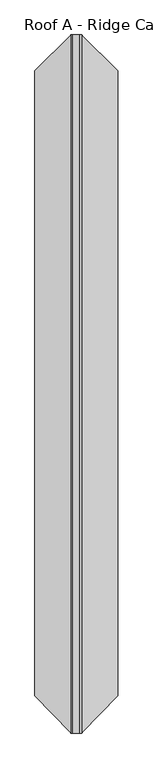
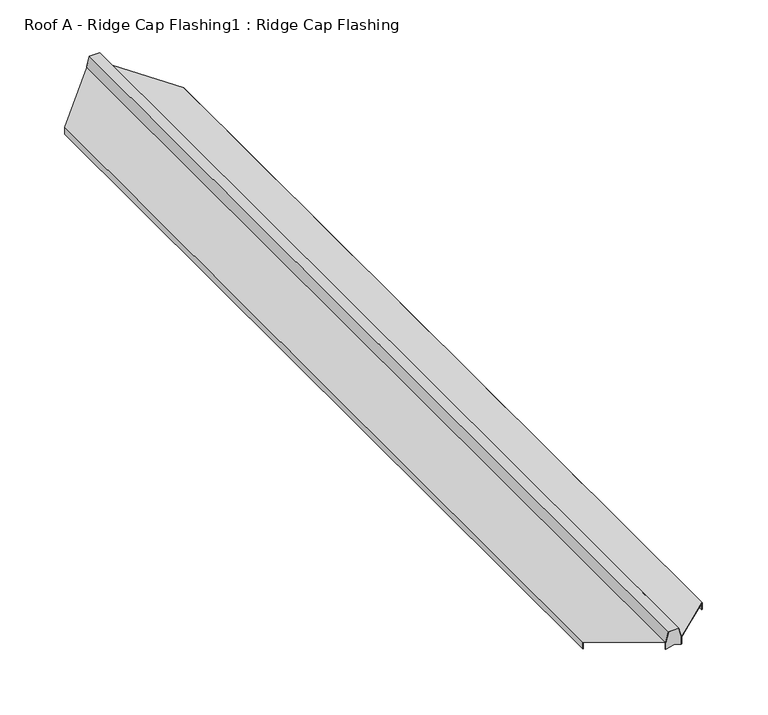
"""IFC4 building model written with IfcOpenShell, lengths in millimetres: proxy geometry, Roof A - Ridge Cap Flashing1 : Ridge Cap Flashing."""

from ifc_helpers import new_model, si_unit, origin, place, context, project, spatial, faceted_brep, source, transform, mapped, element, save


def roof_a_ridge_cap_flashing1_ridge_cap_flashing_063d5443(model_context):
    return source(origin(), model_context, "Body", "Brep", [
        faceted_brep([(-12315.955289, -22159.1704124, 6274.4116755), (-12300.2442274, -22159.1704124, 6333.0461554), (-12246.0308494, -22159.1704124, 6333.0461554), (-12230.3197878, -22159.1704124, 6274.4116755), (-12228.3948302, -22159.1704124, 6273.8958846), (-12228.3948302, -22159.1704124, 6236.0289231), (-12273.1375384, -22159.1704124, 6248.0176956), (-12317.8802466, -22159.1704124, 6236.0289231), (-12317.8802466, -22159.1704124, 6273.8958846), (-12230.3197878, -22161.1704124, 6274.4116755), (-12246.0308494, -22161.1704124, 6333.0461554), (-12300.2442274, -22161.1704124, 6333.0461554), (-12315.955289, -22161.1704124, 6274.4116755), (-12315.955289, -22161.1704124, 6236.5447139), (-12273.1375384, -22161.1704124, 6248.0176956), (-12230.3197878, -22161.1704124, 6236.5447139)], [[[0, 1, 2, 3, 4, 5, 6, 7, 8]], [[9, 10, 11, 12, 13, 14, 15]], [[12, 0, 8]], [[1, 0, 12, 11]], [[2, 1, 11, 10]], [[3, 2, 10, 9]], [[3, 9, 4]], [[14, 6, 5, 15]], [[6, 14, 13, 7]], [[5, 4, 9, 15]], [[8, 7, 13, 12]]]),
        faceted_brep([(-12230.3197878, -16697.2749314, 6274.4116755), (-12246.0308494, -16697.2749314, 6333.0461554), (-12300.2442274, -16697.2749314, 6333.0461554), (-12315.955289, -16697.2749314, 6274.4116755), (-12317.2403671, -16697.2749314, 6274.0673398), (-12317.2403671, -16697.2749314, 6236.2003783), (-12273.1375384, -16697.2749314, 6248.0176956), (-12229.0347097, -16697.2749314, 6236.2003783), (-12229.0347097, -16697.2749314, 6274.0673398), (-12315.955289, -16695.9898533, 6274.4116755), (-12300.2442274, -16695.9898533, 6333.0461554), (-12246.0308494, -16695.9898533, 6333.0461554), (-12230.3197878, -16695.9898533, 6274.4116755), (-12230.3197878, -16695.9898533, 6236.5447139), (-12273.1375384, -16695.9898533, 6248.0176956), (-12315.955289, -16695.9898533, 6236.5447139)], [[[0, 1, 2, 3, 4, 5, 6, 7, 8]], [[9, 10, 11, 12, 13, 14, 15]], [[3, 9, 4]], [[3, 2, 10, 9]], [[2, 1, 11, 10]], [[1, 0, 12, 11]], [[12, 0, 8]], [[6, 14, 13, 7]], [[14, 6, 5, 15]], [[8, 7, 13, 12]], [[5, 4, 9, 15]]]),
        faceted_brep([(-12230.3197878, -16695.9898533, 6274.4116755), (-12246.0308494, -16695.9898533, 6333.0461554), (-12300.2442274, -16695.9898533, 6333.0461554), (-12315.955289, -16695.9898533, 6274.4116755), (-12315.955289, -16695.9898533, 6278.2753788), (-12301.0115544, -16695.9898533, 6334.0461554), (-12245.2635224, -16695.9898533, 6334.0461554), (-12230.3197878, -16695.9898533, 6278.2753788), (-12245.2635224, -22161.1704124, 6334.0461554), (-12301.0115544, -22161.1704124, 6334.0461554), (-12315.955289, -22161.1704124, 6278.2753788), (-12315.955289, -22161.1704124, 6274.4116755), (-12300.2442274, -22161.1704124, 6333.0461554), (-12246.0308494, -22161.1704124, 6333.0461554), (-12230.3197878, -22161.1704124, 6274.4116755), (-12230.3197878, -22161.1704124, 6278.2753788), (-12229.5032913, -22160.3220856, 6275.2281721), (-12229.5032913, -16696.8063499, 6275.2281721), (-12596.7304465, -21869.449551, 6199.1781988), (-12596.7304465, -16976.7650108, 6199.1781988), (-12316.7717855, -16696.8063499, 6275.2281721), (-12597.7304465, -16977.7650108, 6199.9455258), (-12597.7304465, -21868.4105672, 6199.9455258), (-12316.7717855, -22160.3220856, 6275.2281721), (-12596.7304465, -16976.7650108, 6161.043288), (-12596.7304465, -21869.449551, 6161.043288), (-12597.7304465, -16977.7650108, 6161.043288), (-12597.7304465, -21868.4105672, 6161.043288), (-11948.5446303, -16977.7650108, 6199.9455258), (-11948.5446303, -21868.4105672, 6199.9455258), (-11948.5446303, -16977.7650108, 6161.043288), (-11948.5446303, -21868.4105672, 6161.043288), (-11949.5446303, -16976.7650108, 6161.043288), (-11949.5446303, -21869.449551, 6161.043288), (-11949.5446303, -16976.7650108, 6199.1781988), (-11949.5446303, -21869.449551, 6199.1781988)], [[[0, 1, 2, 3, 4, 5, 6, 7]], [[8, 9, 10, 11, 12, 13, 14, 15]], [[6, 5, 9, 8]], [[6, 8, 15, 16, 17, 7]], [[1, 0, 14, 13]], [[2, 1, 13, 12]], [[3, 11, 18, 19]], [[20, 21, 22, 23]], [[3, 2, 12, 11]], [[24, 19, 18, 25]], [[26, 24, 25, 27]], [[21, 26, 27, 22]], [[9, 5, 4, 20, 23, 10]], [[28, 17, 16, 29]], [[30, 28, 29, 31]], [[32, 30, 31, 33]], [[34, 32, 33, 35]], [[14, 0, 34, 35]], [[0, 7, 17, 28, 30, 32, 34]], [[4, 3, 19, 24, 26, 21, 20]], [[11, 10, 23, 22, 27, 25, 18]], [[15, 14, 35, 33, 31, 29, 16]]]),
    ])


if __name__ == "__main__":
    model = new_model("IFC4")
    model_context = context("Model", 3, world=origin())
    ifc_project = project(units=[si_unit("LENGTHUNIT", "METRE", prefix="MILLI")], contexts=[model_context])
    site = spatial("IfcSite", under=ifc_project)
    building = spatial("IfcBuilding", under=site)
    placement = place(None, origin())
    roof_a_ridge_cap_flashing1_ridge_cap_flashing_shape = roof_a_ridge_cap_flashing1_ridge_cap_flashing_063d5443(model_context)
    element("IfcBuildingElementProxy", 1, Name="Roof A - Ridge Cap Flashing1 : Ridge Cap Flashing", ObjectType="Roof A - Ridge Cap Flashing1 : Ridge Cap Flashing", at=placement, inside=building, context=model_context, shape_type="MappedRepresentation", body=[
        mapped(roof_a_ridge_cap_flashing1_ridge_cap_flashing_shape, transform((0.0, 0.0, 0.0), x_axis=(1.0, 0.0, 0.0), y_axis=(0.0, 1.0, 0.0), z_axis=(0.0, 0.0, 1.0))),
    ])
    save(model, "model.ifc")
